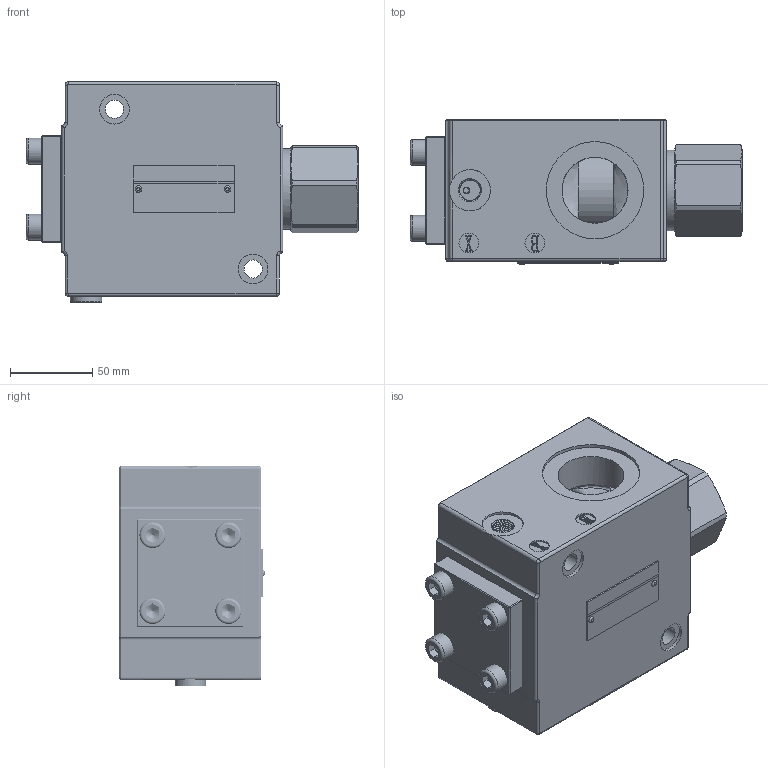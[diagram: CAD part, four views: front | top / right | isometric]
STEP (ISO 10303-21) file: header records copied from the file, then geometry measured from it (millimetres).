
FILE_DESCRIPTION(/* description */ (''),/* implementation_level */ '2;1');
FILE_NAME(/* name */ 'SV30G-3(4)-4XJ液控单向阀（管式）.prt.stp',/* time_stamp */ '2022-03-30T19:20:17+08:00',/* author */ (''),/* organization */ (''),/* preprocessor_version */ 'ST-DEVELOPER v16.7',/* originating_system */ 'SIEMENS PLM Software NX 12.0',/* authorisation */ '');
FILE_SCHEMA (('AUTOMOTIVE_DESIGN { 1 0 10303 214 3 1 1 1 }'));
Products named in the file (1): SV30G-3(4)-4XJ液控单向阀（管式）
Bounding box: 201.24 x 88 x 133.5 mm (x, y, z)
Volume: 1519347.4 mm3; surface area: 160549.7 mm2
Topology: 12 solids, 12 shells, 723 faces, 1876 edges, 1206 vertices
Faces by surface type: plane 438, cylinder 165, bspline 50, cone 50, torus 18, extrusion 2
Full cylindrical faces by diameter (mm): 1.8 x6, 3.4 x8, 6 x1, 8.5 x44, 10.8 x4, 11 x2, 12 x4, 12.3 x2, 12.5 x8, 15.73 x4, 16 x2, 17 x1, 18 x2, 19 x1, 25 x2, 40 x2, 44.8 x2, 46 x1, 48.4 x1, 49 x2, 59 x2
Entity records: 61566 total; most frequent: CARTESIAN_POINT 44332, ORIENTED_EDGE 3132, DIRECTION 2788, EDGE_CURVE 1566, VERTEX_POINT 1061, VECTOR 1012, LINE 1010, AXIS2_PLACEMENT_3D 888
